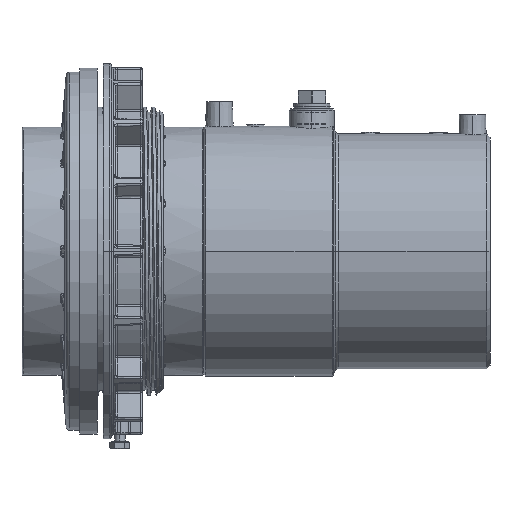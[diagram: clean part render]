
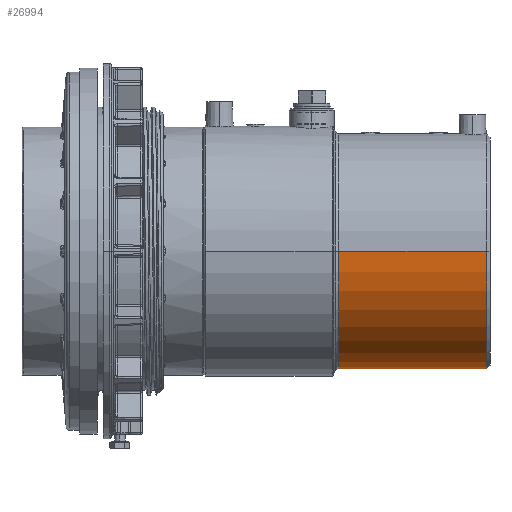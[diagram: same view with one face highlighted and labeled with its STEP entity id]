
A CAD part, left-side view. The second image highlights one B-rep face of the part: STEP entity #26994.
In plain terms, the highlighted cylindrical face has radius 67.25 mm (diameter 134.5 mm), a partial arc.
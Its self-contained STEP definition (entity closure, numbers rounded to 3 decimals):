
#3144 = EDGE_CURVE ( 'NONE', #79537, #79518, #68172, .T. ) ;
#3145 = EDGE_CURVE ( 'NONE', #79538, #79519, #68184, .T. ) ;
#4773 = ORIENTED_EDGE ( 'NONE', *, *, #3145, .F. ) ;
#4774 = ORIENTED_EDGE ( 'NONE', *, *, #61266, .T. ) ;
#4775 = ORIENTED_EDGE ( 'NONE', *, *, #3144, .T. ) ;
#4776 = ORIENTED_EDGE ( 'NONE', *, *, #26232, .T. ) ;
#26232 = EDGE_CURVE ( 'NONE', #79518, #79519, #76185, .T. ) ;
#26994 = ADVANCED_FACE ( 'NONE', ( #43487 ), #43496, .T. ) ;
#29820 = EDGE_LOOP ( 'NONE', ( #4773, #4774, #4775, #4776 ) ) ;
#43486 = DIRECTION ( 'NONE',  ( 0., -1., 0. ) ) ;
#43487 = FACE_OUTER_BOUND ( 'NONE', #29820, .T. ) ;
#43492 = CARTESIAN_POINT ( 'NONE',  ( 0., -172.094, 0. ) ) ;
#43496 = CYLINDRICAL_SURFACE ( 'NONE', #69078, 67.25 ) ;
#43497 = DIRECTION ( 'NONE',  ( 1., 0., 0. ) ) ;
#52010 = CARTESIAN_POINT ( 'NONE',  ( 0., -81.109, 0. ) ) ;
#52011 = DIRECTION ( 'NONE',  ( 0., -1., 0. ) ) ;
#52012 = DIRECTION ( 'NONE',  ( 1., 0., 0. ) ) ;
#60738 = CIRCLE ( 'NONE', #60741, 67.25 ) ;
#60741 = AXIS2_PLACEMENT_3D ( 'NONE', #52010, #52011, #52012 ) ;
#61266 = EDGE_CURVE ( 'NONE', #79538, #79537, #60738, .T. ) ;
#61886 = CARTESIAN_POINT ( 'NONE',  ( 67.25, -165.827, 0. ) ) ;
#61887 = CARTESIAN_POINT ( 'NONE',  ( -67.25, -165.827, 0. ) ) ;
#61905 = CARTESIAN_POINT ( 'NONE',  ( 67.25, -81.109, 0. ) ) ;
#61906 = CARTESIAN_POINT ( 'NONE',  ( -67.25, -81.109, 0. ) ) ;
#68172 = LINE ( 'NONE', #68179, #83864 ) ;
#68179 = CARTESIAN_POINT ( 'NONE',  ( 67.25, -172.094, 0. ) ) ;
#68184 = LINE ( 'NONE', #68190, #83862 ) ;
#68189 = DIRECTION ( 'NONE',  ( 0., -1., 0. ) ) ;
#68190 = CARTESIAN_POINT ( 'NONE',  ( -67.25, -172.094, 0. ) ) ;
#68191 = DIRECTION ( 'NONE',  ( 0., -1., 0. ) ) ;
#69078 = AXIS2_PLACEMENT_3D ( 'NONE', #43492, #43486, #43497 ) ;
#76185 = CIRCLE ( 'NONE', #76190, 67.25 ) ;
#76190 = AXIS2_PLACEMENT_3D ( 'NONE', #81823, #81824, #81826 ) ;
#79518 = VERTEX_POINT ( 'NONE', #61886 ) ;
#79519 = VERTEX_POINT ( 'NONE', #61887 ) ;
#79537 = VERTEX_POINT ( 'NONE', #61905 ) ;
#79538 = VERTEX_POINT ( 'NONE', #61906 ) ;
#81823 = CARTESIAN_POINT ( 'NONE',  ( 0., -165.827, 0. ) ) ;
#81824 = DIRECTION ( 'NONE',  ( 0., 1., 0. ) ) ;
#81826 = DIRECTION ( 'NONE',  ( -1., 0., 0. ) ) ;
#83862 = VECTOR ( 'NONE', #68191, 1000. ) ;
#83864 = VECTOR ( 'NONE', #68189, 1000. ) ;
